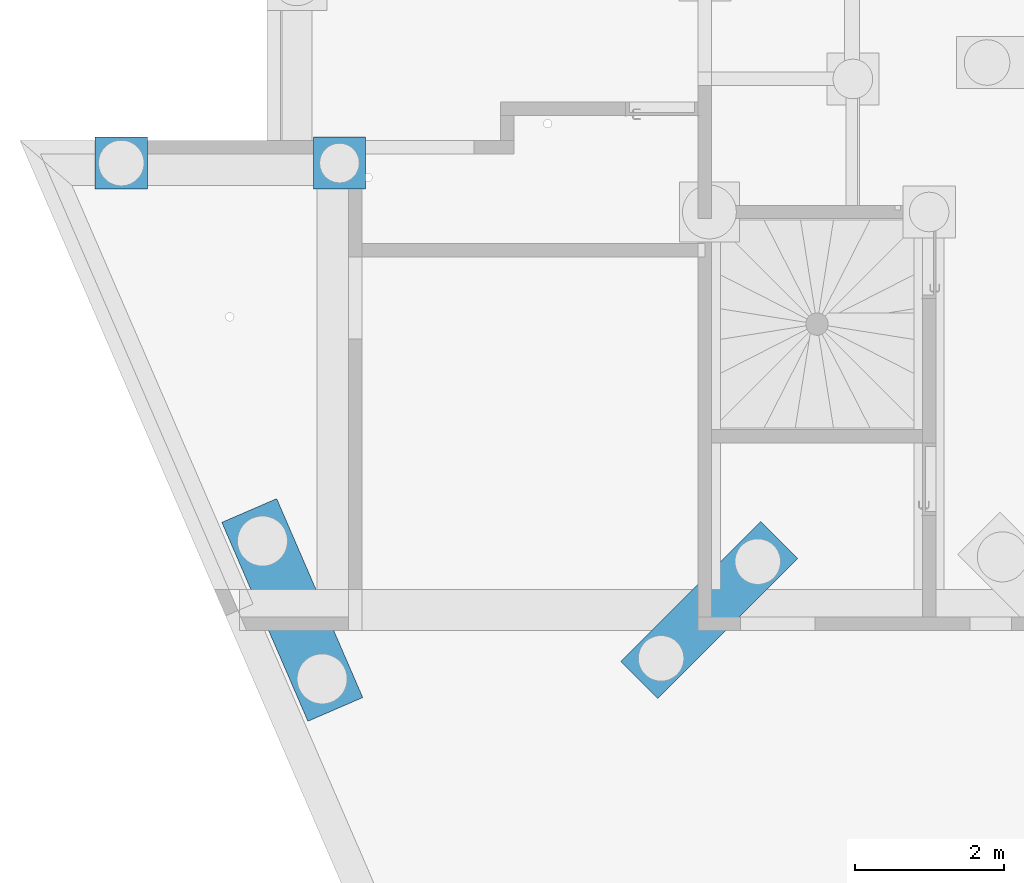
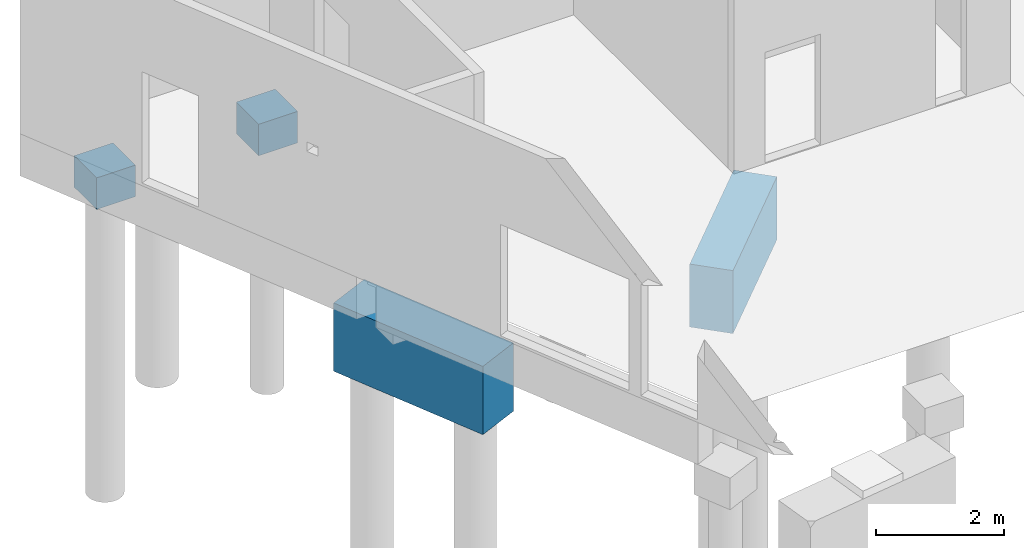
# One storey, part 10 of 29: 4 slabs.
"""IFC2X3 building model written with IfcOpenShell, lengths in centimetres."""

from ifc_helpers import new_model, entity, si_unit, converted_unit, derived_unit, direction, frame, origin, place, context, subcontext, project, spatial, faceted_brep, material, element, save


model = new_model("IFC2X3")

# Units and contexts
model_context = context("Model", 3, precision=0.001, world=origin(), true_north=direction((6.12303176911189e-17, 1.0)))
body_context = subcontext(model_context, "Body", "Model", "MODEL_VIEW")
ifc_project = project(units=[si_unit("LENGTHUNIT", "METRE", prefix="CENTI"), si_unit("AREAUNIT", "SQUARE_METRE"), si_unit("VOLUMEUNIT", "CUBIC_METRE"), converted_unit("PLANEANGLEUNIT", "DEGREE", entity("IfcRatioMeasure", 0.0174532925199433), si_unit("PLANEANGLEUNIT", "RADIAN"), dimensions=[0, 0, 0, 0, 0, 0, 0]), si_unit("MASSUNIT", "GRAM", prefix="KILO"), derived_unit("MASSDENSITYUNIT", [(si_unit("MASSUNIT", "GRAM", prefix="KILO"), 1), (si_unit("LENGTHUNIT", "METRE"), -3)]), si_unit("TIMEUNIT", "SECOND"), si_unit("FREQUENCYUNIT", "HERTZ"), si_unit("THERMODYNAMICTEMPERATUREUNIT", "DEGREE_CELSIUS"), derived_unit("THERMALTRANSMITTANCEUNIT", [(si_unit("MASSUNIT", "GRAM", prefix="KILO"), 1), (si_unit("THERMODYNAMICTEMPERATUREUNIT", "KELVIN"), -1), (si_unit("TIMEUNIT", "SECOND"), -3)]), derived_unit("VOLUMETRICFLOWRATEUNIT", [(si_unit("LENGTHUNIT", "METRE"), 3), (si_unit("TIMEUNIT", "SECOND"), -1)]), si_unit("ELECTRICCURRENTUNIT", "AMPERE"), si_unit("ELECTRICVOLTAGEUNIT", "VOLT"), si_unit("POWERUNIT", "WATT"), si_unit("FORCEUNIT", "NEWTON"), si_unit("ILLUMINANCEUNIT", "LUX"), si_unit("LUMINOUSFLUXUNIT", "LUMEN"), si_unit("LUMINOUSINTENSITYUNIT", "CANDELA"), derived_unit("USERDEFINED", [(si_unit("MASSUNIT", "GRAM", prefix="KILO"), -1), (si_unit("LENGTHUNIT", "METRE"), -2), (si_unit("TIMEUNIT", "SECOND"), 3), (si_unit("LUMINOUSFLUXUNIT", "LUMEN"), 1)]), derived_unit("LINEARVELOCITYUNIT", [(si_unit("LENGTHUNIT", "METRE"), 1), (si_unit("TIMEUNIT", "SECOND"), -1)]), si_unit("PRESSUREUNIT", "PASCAL"), derived_unit("USERDEFINED", [(si_unit("LENGTHUNIT", "METRE"), -2), (si_unit("MASSUNIT", "GRAM", prefix="KILO"), 1), (si_unit("TIMEUNIT", "SECOND"), -2)])], contexts=[model_context])

# Site, building, storey
site_placement = place(None, origin())
site = spatial("IfcSite", under=ifc_project, at=site_placement, Name="Default", CompositionType="ELEMENT")
building_placement = place(site_placement, origin())
building = spatial("IfcBuilding", under=site, at=building_placement, Name="CAGE 03", CompositionType="ELEMENT")
storey_placement = place(building_placement, frame((0.0, 0.0, -34.0)))
storey = spatial("IfcBuildingStorey", under=building, at=storey_placement, Name="+3.66", CompositionType="ELEMENT", Elevation=-34.0000000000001)

# Slabs
ifc_material = material(Name="Béton, C25/30")
slab_1_placement = place(storey_placement, frame((2847.36582014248, 4972.16066607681, -145.0)))
element("IfcSlab", 1, at=slab_1_placement, inside=storey, material=ifc_material, Name="M_Base-Rectangulaire:70x70x60ht", ObjectType="M_Base-Rectangulaire:70x70x60ht", PredefinedType="BASESLAB", context=body_context, shape_type="Brep", body=[
    faceted_brep([(70.0, 70.0, 60.0), (0.0, 70.0, 60.0), (0.0, 0.0, 60.0), (70.0, 0.0, 60.0), (0.0, 0.0, 0.0), (13.4332431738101, 13.4332431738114, 0.0), (18.8249323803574, 11.1999323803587, 0.0), (24.2166215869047, 8.96662158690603, 0.0), (29.6083107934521, 6.73331079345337, 0.0), (35.0, 4.50000000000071, 0.0), (70.0, 0.0, 0.0), (11.199932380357, 18.8249323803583, 0.0), (8.96662158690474, 24.216621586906, 0.0), (6.73331079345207, 29.6083107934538, 0.0), (4.49999999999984, 35.0, 0.0), (0.0, 70.0, 0.0), (6.73331079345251, 40.3916892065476, 0.0), (8.96662158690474, 45.7833784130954, 0.0), (11.1999323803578, 51.1750676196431, 0.0), (13.4332431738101, 56.5667568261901, 0.0), (18.8249323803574, 58.8000676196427, 0.0), (24.2166215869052, 61.0333784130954, 0.0), (29.6083107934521, 63.266689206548, 0.0), (35.0, 65.5000000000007, 0.0), (70.0, 70.0, 0.0), (65.4999999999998, 35.0, 0.0), (63.2666892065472, 40.3916892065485, 0.0), (40.3916892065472, 63.266689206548, 0.0), (45.7833784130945, 61.0333784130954, 0.0), (51.1750676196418, 58.8000676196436, 0.0), (56.5667568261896, 56.5667568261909, 0.0), (61.0333784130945, 45.7833784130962, 0.0), (58.8000676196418, 51.1750676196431, 0.0), (40.3916892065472, 6.73331079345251, 0.0), (45.7833784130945, 8.96662158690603, 0.0), (51.1750676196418, 11.1999323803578, 0.0), (56.5667568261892, 13.4332431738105, 0.0), (58.8000676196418, 18.8249323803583, 0.0), (61.0333784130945, 24.2166215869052, 0.0), (63.2666892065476, 29.6083107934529, 0.0), (35.0, 65.5000000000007, 5.0), (40.3916892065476, 63.266689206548, 5.0), (45.7833784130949, 61.0333784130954, 5.0), (51.1750676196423, 58.8000676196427, 5.0), (56.5667568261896, 56.5667568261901, 5.0), (59.8147856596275, 48.7253215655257, 5.0), (62.6573928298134, 41.8626607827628, 5.0), (65.4999999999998, 35.0, 5.0), (62.6573928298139, 28.1373392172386, 5.0), (61.0333784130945, 24.2166215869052, 5.0), (58.8000676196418, 18.8249323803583, 5.0), (56.5667568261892, 13.4332431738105, 5.0), (51.1750676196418, 11.1999323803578, 5.0), (45.7833784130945, 8.96662158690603, 5.0), (40.3916892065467, 6.73331079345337, 5.0), (35.0, 4.50000000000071, 5.0), (29.6083107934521, 6.73331079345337, 5.0), (24.2166215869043, 8.96662158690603, 5.0), (18.824932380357, 11.1999323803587, 5.0), (13.4332431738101, 13.4332431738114, 5.0), (10.1852143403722, 21.2746784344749, 5.0), (7.34260717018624, 28.1373392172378, 5.0), (4.49999999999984, 35.0, 5.0), (7.34260717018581, 41.8626607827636, 5.0), (8.96662158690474, 45.7833784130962, 5.0), (11.1999323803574, 51.1750676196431, 5.0), (13.4332431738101, 56.5667568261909, 5.0), (18.8249323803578, 58.8000676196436, 5.0), (24.2166215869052, 61.0333784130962, 5.0), (29.6083107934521, 63.2666892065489, 5.0)], [[[0, 1, 2, 3]], [[4, 5, 6]], [[4, 6, 7]], [[4, 7, 8]], [[4, 8, 9]], [[4, 9, 10]], [[4, 11, 5]], [[4, 12, 11]], [[4, 13, 12]], [[4, 14, 13]], [[15, 14, 4]], [[15, 16, 14]], [[15, 17, 16]], [[15, 18, 17]], [[15, 19, 18]], [[15, 20, 19]], [[15, 21, 20]], [[15, 22, 21]], [[15, 23, 22]], [[24, 23, 15]], [[10, 25, 24]], [[24, 25, 26]], [[24, 27, 23]], [[24, 28, 27]], [[24, 29, 28]], [[24, 30, 29]], [[24, 26, 31]], [[24, 31, 32]], [[24, 32, 30]], [[10, 9, 33]], [[10, 33, 34]], [[10, 34, 35]], [[10, 35, 36]], [[10, 36, 37]], [[10, 37, 38]], [[10, 38, 39]], [[10, 39, 25]], [[2, 1, 15, 4]], [[3, 2, 4, 10]], [[0, 3, 10, 24]], [[1, 0, 24, 15]], [[40, 41, 42, 43, 44, 45, 46, 47, 48, 49, 50, 51, 52, 53, 54, 55, 56, 57, 58, 59, 60, 61, 62, 63, 64, 65, 66, 67, 68, 69]], [[5, 59, 58, 57, 56, 55, 9, 8, 7, 6]], [[39, 38, 37, 36, 51, 50, 49, 48, 47, 25]], [[5, 11, 12, 13, 14, 62, 61, 60, 59]], [[33, 9, 55, 54, 53, 52, 51, 36, 35, 34]], [[30, 44, 43, 42, 41, 40, 23, 27, 28, 29]], [[16, 17, 18, 19, 66, 65, 64, 63, 62, 14]], [[30, 32, 31, 26, 25, 47, 46, 45, 44]], [[22, 23, 40, 69, 68, 67, 66, 19, 20, 21]]]),
])
slab_2_placement = place(storey_placement, frame((3139.36582014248, 4972.16066607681, -145.0)))
element("IfcSlab", 2, at=slab_2_placement, inside=storey, material=ifc_material, Name="M_Base-Rectangulaire:70x70x60ht", ObjectType="M_Base-Rectangulaire:70x70x60ht", PredefinedType="BASESLAB", context=body_context, shape_type="Brep", body=[
    faceted_brep([(70.0, 70.0, 60.0), (0.0, 70.0, 60.0), (0.0, 0.0, 60.0), (70.0, 0.0, 60.0), (0.0, 0.0, 0.0), (8.49999999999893, 35.0, 0.0), (10.6920097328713, 30.076665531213, 0.0), (0.0, 70.0, 0.0), (12.8840194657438, 25.1533310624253, 0.0), (15.0760291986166, 20.2299965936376, 0.0), (17.268038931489, 15.3066621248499, 0.0), (22.393530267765, 13.6412890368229, 0.0), (27.5190216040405, 11.9759159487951, 0.0), (32.644512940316, 10.3105428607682, 0.0), (37.7700042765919, 8.64516977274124, 0.0), (70.0, 0.0, 0.0), (11.030524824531, 42.788154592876, 0.0), (13.561049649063, 50.5763091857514, 0.0), (18.2282861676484, 53.2709394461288, 0.0), (22.8955226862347, 55.9655697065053, 0.0), (27.5627592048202, 58.6601999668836, 0.0), (32.229995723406, 61.3548302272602, 0.0), (70.0, 70.0, 0.0), (61.499999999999, 35.0, 0.0), (59.3079902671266, 39.9233344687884, 0.0), (57.1159805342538, 44.8466689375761, 0.0), (54.9239708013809, 49.7700034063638, 0.0), (52.7319610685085, 54.6933378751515, 0.0), (47.606469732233, 56.3587109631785, 0.0), (42.4809783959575, 58.0240840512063, 0.0), (37.355487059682, 59.6894571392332, 0.0), (42.4372407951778, 11.3398000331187, 0.0), (47.1044773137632, 14.0344302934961, 0.0), (51.7717138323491, 16.7290605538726, 0.0), (56.438950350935, 19.42369081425, 0.0), (58.969475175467, 27.2118454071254, 0.0), (8.49999999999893, 35.0, 5.0), (10.6920097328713, 39.9233344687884, 5.0), (12.8840194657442, 44.8466689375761, 5.0), (15.0760291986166, 49.7700034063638, 5.0), (17.2680389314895, 54.6933378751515, 5.0), (22.393530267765, 56.3587109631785, 5.0), (27.5190216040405, 58.0240840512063, 5.0), (32.6445129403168, 59.6894571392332, 5.0), (37.7700042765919, 61.3548302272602, 5.0), (42.4372407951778, 58.6601999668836, 5.0), (47.1044773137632, 55.9655697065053, 5.0), (51.7717138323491, 53.2709394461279, 5.0), (56.438950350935, 50.5763091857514, 5.0), (58.969475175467, 42.788154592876, 5.0), (61.499999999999, 35.0, 5.0), (59.3079902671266, 30.076665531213, 5.0), (57.1159805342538, 25.1533310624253, 5.0), (54.9239708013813, 20.2299965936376, 5.0), (52.7319610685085, 15.3066621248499, 5.0), (47.6064697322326, 13.6412890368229, 5.0), (42.4809783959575, 11.9759159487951, 5.0), (37.3554870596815, 10.3105428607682, 5.0), (32.229995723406, 8.64516977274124, 5.0), (27.5627592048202, 11.3398000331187, 5.0), (22.8955226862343, 14.0344302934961, 5.0), (18.2282861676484, 16.7290605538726, 5.0), (13.561049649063, 19.42369081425, 5.0), (11.0305248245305, 27.2118454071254, 5.0)], [[[0, 1, 2, 3]], [[4, 5, 6]], [[5, 4, 7]], [[4, 6, 8]], [[4, 8, 9]], [[4, 9, 10]], [[4, 10, 11]], [[4, 11, 12]], [[4, 12, 13]], [[4, 13, 14]], [[14, 15, 4]], [[7, 16, 5]], [[7, 17, 16]], [[7, 18, 17]], [[7, 19, 18]], [[7, 20, 19]], [[7, 21, 20]], [[21, 7, 22]], [[23, 22, 15]], [[22, 23, 24]], [[22, 24, 25]], [[22, 25, 26]], [[22, 26, 27]], [[22, 27, 28]], [[22, 28, 29]], [[22, 29, 30]], [[22, 30, 21]], [[15, 14, 31]], [[15, 31, 32]], [[15, 32, 33]], [[15, 33, 34]], [[15, 34, 35]], [[15, 35, 23]], [[2, 1, 7, 4]], [[3, 2, 4, 15]], [[0, 3, 15, 22]], [[1, 0, 22, 7]], [[36, 37, 38, 39, 40, 41, 42, 43, 44, 45, 46, 47, 48, 49, 50, 51, 52, 53, 54, 55, 56, 57, 58, 59, 60, 61, 62, 63]], [[9, 8, 62]], [[63, 6, 36]], [[63, 62, 8]], [[62, 61, 9]], [[35, 34, 52]], [[59, 58, 12]], [[36, 6, 5]], [[32, 55, 33]], [[11, 10, 60]], [[34, 33, 54]], [[35, 51, 23]], [[12, 58, 13]], [[60, 10, 61]], [[8, 6, 63]], [[57, 13, 58]], [[61, 10, 9]], [[56, 55, 32]], [[11, 59, 12]], [[54, 33, 55]], [[53, 52, 34, 54]], [[57, 14, 13]], [[31, 14, 56, 32]], [[11, 60, 59]], [[50, 23, 51]], [[57, 56, 14]], [[35, 52, 51]], [[26, 25, 48]], [[49, 24, 50]], [[49, 48, 25]], [[48, 47, 26]], [[46, 27, 47]], [[45, 28, 46]], [[50, 24, 23]], [[21, 43, 20]], [[45, 44, 29]], [[39, 38, 17, 40]], [[16, 37, 5]], [[29, 44, 30]], [[25, 24, 49]], [[43, 21, 30]], [[47, 27, 26]], [[42, 41, 19]], [[28, 27, 46]], [[16, 17, 38]], [[45, 29, 28]], [[36, 5, 37]], [[42, 20, 43]], [[40, 18, 41]], [[19, 41, 18]], [[40, 17, 18]], [[43, 30, 44]], [[42, 19, 20]], [[16, 38, 37]]]),
])
slab_3_placement = place(storey_placement, frame((3550.92543429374, 4290.72028022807, -232.0)))
element("IfcSlab", 3, at=slab_3_placement, inside=storey, material=ifc_material, Name="M_Base-Rectangulaire:265x70x120ht", ObjectType="M_Base-Rectangulaire:265x70x120ht", PredefinedType="BASESLAB", context=body_context, shape_type="Brep", body=[
    faceted_brep([(49.4974746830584, 0.0, 120.0), (236.880771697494, 187.383297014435, 120.0), (187.383297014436, 236.880771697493, 120.0), (0.0, 49.4974746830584, 120.0), (187.383297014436, 236.880771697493, 0.0), (161.573899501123, 204.70741315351, 0.0), (32.1733585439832, 75.3068721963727, 0.0), (0.0, 49.4974746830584, 0.0), (166.965588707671, 206.940723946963, 0.0), (172.357277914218, 209.174034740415, 0.0), (177.748967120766, 211.407345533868, 0.0), (183.140656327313, 213.64065632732, 0.0), (188.53234553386, 211.407345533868, 0.0), (193.924034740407, 209.174034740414, 0.0), (199.315723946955, 206.940723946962, 0.0), (204.707413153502, 204.70741315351, 0.0), (236.880771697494, 187.383297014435, 0.0), (206.940723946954, 199.315723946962, 0.0), (209.174034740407, 193.924034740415, 0.0), (211.40734553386, 188.532345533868, 0.0), (213.640656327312, 183.14065632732, 0.0), (211.40734553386, 177.748967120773, 0.0), (209.174034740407, 172.357277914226, 0.0), (206.940723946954, 166.965588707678, 0.0), (204.707413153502, 161.57389950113, 0.0), (75.3068721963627, 32.1733585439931, 0.0), (49.4974746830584, 0.0, 0.0), (32.1733585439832, 32.1733585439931, 0.0), (37.5650477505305, 29.9400477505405, 0.0), (69.9151829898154, 29.9400477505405, 0.0), (64.5234937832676, 27.7067369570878, 0.0), (59.1318045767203, 25.4734261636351, 0.0), (53.740115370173, 23.2401153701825, 0.0), (42.9567369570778, 27.7067369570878, 0.0), (48.3484261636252, 25.4734261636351, 0.0), (77.5401829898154, 37.5650477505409, 0.0), (79.7734937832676, 42.9567369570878, 0.0), (82.0068045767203, 48.3484261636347, 0.0), (84.2401153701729, 53.7401153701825, 0.0), (199.315723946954, 159.340588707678, 0.0), (193.924034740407, 157.107277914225, 0.0), (188.532345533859, 154.873967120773, 0.0), (183.140656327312, 152.64065632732, 0.0), (177.748967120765, 154.873967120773, 0.0), (172.357277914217, 157.107277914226, 0.0), (166.96558870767, 159.340588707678, 0.0), (161.573899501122, 161.573899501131, 0.0), (82.0068045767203, 59.1318045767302, 0.0), (79.7734937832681, 64.5234937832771, 0.0), (77.5401829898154, 69.915182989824, 0.0), (75.3068721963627, 75.3068721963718, 0.0), (69.9151829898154, 77.5401829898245, 0.0), (64.5234937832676, 79.7734937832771, 0.0), (59.1318045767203, 82.0068045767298, 0.0), (53.740115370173, 84.2401153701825, 0.0), (159.34058870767, 199.315723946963, 0.0), (48.3484261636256, 82.0068045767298, 0.0), (159.34058870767, 166.965588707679, 0.0), (157.107277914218, 172.357277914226, 0.0), (154.873967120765, 177.748967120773, 0.0), (152.640656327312, 183.140656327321, 0.0), (157.107277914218, 193.924034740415, 0.0), (154.873967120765, 188.532345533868, 0.0), (42.9567369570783, 79.773493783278, 0.0), (37.5650477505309, 77.5401829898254, 0.0), (29.9400477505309, 69.9151829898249, 0.0), (27.7067369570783, 64.5234937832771, 0.0), (25.473426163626, 59.1318045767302, 0.0), (23.240115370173, 53.7401153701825, 0.0), (25.4734261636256, 48.3484261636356, 0.0), (27.7067369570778, 42.9567369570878, 0.0), (29.9400477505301, 37.56504775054, 0.0), (213.640656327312, 183.14065632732, 5.0), (211.40734553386, 177.748967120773, 5.0), (209.174034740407, 172.357277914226, 5.0), (206.940723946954, 166.965588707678, 5.0), (204.707413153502, 161.57389950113, 5.0), (196.865977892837, 158.325870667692, 5.0), (190.003317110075, 155.483263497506, 5.0), (183.140656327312, 152.64065632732, 5.0), (176.27799554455, 155.483263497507, 5.0), (172.357277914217, 157.107277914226, 5.0), (166.96558870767, 159.340588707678, 5.0), (161.573899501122, 161.573899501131, 5.0), (159.34058870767, 166.965588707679, 5.0), (157.107277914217, 172.357277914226, 5.0), (154.873967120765, 177.748967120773, 5.0), (152.640656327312, 183.14065632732, 5.0), (154.873967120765, 188.532345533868, 5.0), (157.107277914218, 193.924034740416, 5.0), (159.34058870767, 199.315723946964, 5.0), (161.573899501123, 204.70741315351, 5.0), (169.415334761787, 207.955441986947, 5.0), (176.27799554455, 210.798049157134, 5.0), (183.140656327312, 213.64065632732, 5.0), (190.003317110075, 210.798049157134, 5.0), (193.924034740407, 209.174034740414, 5.0), (199.315723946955, 206.940723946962, 5.0), (204.707413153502, 204.70741315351, 5.0), (206.940723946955, 199.315723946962, 5.0), (209.174034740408, 193.924034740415, 5.0), (211.40734553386, 188.532345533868, 5.0), (84.2401153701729, 53.7401153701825, 5.0), (82.0068045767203, 48.3484261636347, 5.0), (79.7734937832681, 42.9567369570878, 5.0), (77.5401829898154, 37.56504775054, 5.0), (75.3068721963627, 32.1733585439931, 5.0), (67.4654369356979, 28.9253297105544, 5.0), (60.6027761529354, 26.082722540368, 5.0), (53.740115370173, 23.2401153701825, 5.0), (46.8774545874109, 26.0827225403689, 5.0), (42.9567369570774, 27.7067369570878, 5.0), (37.5650477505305, 29.9400477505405, 5.0), (32.1733585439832, 32.1733585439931, 5.0), (29.9400477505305, 37.5650477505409, 5.0), (27.7067369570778, 42.9567369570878, 5.0), (25.4734261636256, 48.3484261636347, 5.0), (23.240115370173, 53.7401153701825, 5.0), (25.4734261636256, 59.1318045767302, 5.0), (27.7067369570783, 64.5234937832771, 5.0), (29.9400477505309, 69.9151829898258, 5.0), (32.1733585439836, 75.3068721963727, 5.0), (40.0147938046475, 78.5549010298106, 5.0), (46.8774545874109, 81.3975081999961, 5.0), (53.7401153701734, 84.2401153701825, 5.0), (60.602776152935, 81.3975081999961, 5.0), (64.5234937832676, 79.7734937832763, 5.0), (69.9151829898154, 77.5401829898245, 5.0), (75.3068721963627, 75.3068721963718, 5.0), (77.5401829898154, 69.915182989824, 5.0), (79.7734937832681, 64.5234937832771, 5.0), (82.0068045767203, 59.1318045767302, 5.0)], [[[0, 1, 2, 3]], [[4, 5, 6]], [[6, 7, 4]], [[4, 8, 5]], [[4, 9, 8]], [[4, 10, 9]], [[4, 11, 10]], [[4, 12, 11]], [[4, 13, 12]], [[4, 14, 13]], [[4, 15, 14]], [[15, 4, 16]], [[16, 17, 15]], [[16, 18, 17]], [[16, 19, 18]], [[16, 20, 19]], [[16, 21, 20]], [[16, 22, 21]], [[16, 23, 22]], [[16, 24, 23]], [[24, 16, 25]], [[26, 25, 16]], [[27, 26, 7]], [[26, 27, 28]], [[26, 29, 25]], [[26, 30, 29]], [[26, 31, 30]], [[26, 32, 31]], [[26, 28, 33]], [[26, 33, 34]], [[26, 34, 32]], [[24, 25, 35]], [[24, 35, 36]], [[24, 36, 37]], [[24, 37, 38]], [[38, 39, 24]], [[38, 40, 39]], [[38, 41, 40]], [[38, 42, 41]], [[38, 43, 42]], [[38, 44, 43]], [[38, 45, 44]], [[38, 46, 45]], [[46, 38, 47]], [[46, 47, 48]], [[46, 48, 49]], [[46, 49, 50]], [[46, 50, 51]], [[46, 51, 52]], [[46, 52, 53]], [[46, 53, 54]], [[54, 5, 55]], [[5, 54, 56]], [[54, 57, 46]], [[54, 58, 57]], [[54, 59, 58]], [[54, 60, 59]], [[54, 55, 61]], [[54, 61, 62]], [[54, 62, 60]], [[5, 56, 63]], [[5, 63, 64]], [[5, 64, 6]], [[7, 6, 65]], [[7, 65, 66]], [[7, 66, 67]], [[7, 67, 68]], [[7, 68, 69]], [[7, 69, 70]], [[7, 70, 71]], [[7, 71, 27]], [[2, 1, 16, 4]], [[3, 2, 4, 7]], [[0, 3, 7, 26]], [[1, 0, 26, 16]], [[72, 73, 74, 75, 76, 77, 78, 79, 80, 81, 82, 83, 84, 85, 86, 87, 88, 89, 90, 91, 92, 93, 94, 95, 96, 97, 98, 99, 100, 101]], [[102, 103, 104, 105, 106, 107, 108, 109, 110, 111, 112, 113, 114, 115, 116, 117, 118, 119, 120, 121, 122, 123, 124, 125, 126, 127, 128, 129, 130, 131]], [[5, 91, 90, 89, 88, 87, 60, 62, 61, 55]], [[43, 44, 45, 46, 83, 82, 81, 80, 79, 42]], [[5, 8, 9, 10, 11, 94, 93, 92, 91]], [[59, 60, 87, 86, 85, 84, 83, 46, 57, 58]], [[24, 76, 75, 74, 73, 72, 20, 21, 22, 23]], [[12, 13, 14, 15, 98, 97, 96, 95, 94, 11]], [[24, 39, 40, 41, 42, 79, 78, 77, 76]], [[19, 20, 72, 101, 100, 99, 98, 15, 17, 18]], [[6, 121, 120, 119, 118, 117, 68, 67, 66, 65]], [[34, 33, 28, 27, 113, 112, 111, 110, 109, 32]], [[6, 64, 63, 56, 54, 124, 123, 122, 121]], [[69, 68, 117, 116, 115, 114, 113, 27, 71, 70]], [[25, 106, 105, 104, 103, 102, 38, 37, 36, 35]], [[53, 52, 51, 50, 128, 127, 126, 125, 124, 54]], [[25, 29, 30, 31, 32, 109, 108, 107, 106]], [[47, 38, 102, 131, 130, 129, 128, 50, 49, 48]]]),
])
slab_4_placement = place(storey_placement, frame((3016.96330446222, 4260.1993820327, -242.0)))
element("IfcSlab", 4, at=slab_4_placement, inside=storey, material=ifc_material, Name="M_Base-Rectangulaire:290x80x130ht", ObjectType="M_Base-Rectangulaire:290x80x130ht", PredefinedType="BASESLAB", context=body_context, shape_type="Brep", body=[
    faceted_brep([(188.582616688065, 31.7684977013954, 130.0), (73.4218125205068, 297.922568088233, 130.0), (0.0, 266.154070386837, 130.0), (115.160804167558, 0.0, 130.0), (0.0, 266.154070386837, 0.0), (23.6367491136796, 227.894377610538, 0.0), (103.455099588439, 43.422073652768, 0.0), (115.160804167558, 0.0, 0.0), (23.402263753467, 233.94063032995, 0.0), (23.167778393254, 239.98688304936, 0.0), (22.9332930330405, 246.033135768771, 0.0), (22.6988076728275, 252.079388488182, 0.0), (26.5988550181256, 256.705594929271, 0.0), (30.4989023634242, 261.33180137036, 0.0), (34.3989497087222, 265.958007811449, 0.0), (38.2989970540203, 270.584214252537, 0.0), (73.4218125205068, 297.922568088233, 0.0), (45.7595061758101, 270.873547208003, 0.0), (53.2200152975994, 271.162880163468, 0.0), (60.6805244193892, 271.452213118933, 0.0), (68.1410335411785, 271.741546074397, 0.0), (72.3876544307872, 267.431283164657, 0.0), (76.6342753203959, 263.121020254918, 0.0), (80.8808962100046, 258.810757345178, 0.0), (85.1275170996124, 254.500494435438, 0.0), (164.945867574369, 70.0281904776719, 0.0), (188.582616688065, 31.7684977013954, 0.0), (150.283619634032, 27.3383538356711, 0.0), (154.183666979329, 31.9645602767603, 0.0), (165.180352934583, 63.9819377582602, 0.0), (165.414838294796, 57.9356850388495, 0.0), (165.64932365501, 51.8894323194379, 0.0), (165.883809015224, 45.8431796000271, 0.0), (158.083714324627, 36.5907667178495, 0.0), (161.983761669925, 41.2169731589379, 0.0), (160.69924668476, 74.3384533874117, 0.0), (156.452625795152, 78.6487162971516, 0.0), (152.206004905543, 82.9589792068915, 0.0), (147.959384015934, 87.2692421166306, 0.0), (85.3620024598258, 248.454241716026, 0.0), (85.5964878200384, 242.407988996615, 0.0), (85.8309731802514, 236.361736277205, 0.0), (86.0654585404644, 230.315483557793, 0.0), (82.1654111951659, 225.689277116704, 0.0), (78.2653638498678, 221.063070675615, 0.0), (74.3653165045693, 216.436864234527, 0.0), (70.4652691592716, 211.810657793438, 0.0), (140.498874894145, 86.9799091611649, 0.0), (133.038365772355, 86.6905762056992, 0.0), (125.577856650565, 86.4012432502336, 0.0), (118.117347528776, 86.1119102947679, 0.0), (63.0047600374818, 211.521324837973, 0.0), (55.5442509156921, 211.231991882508, 0.0), (48.0837417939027, 210.942658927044, 0.0), (40.6232326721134, 210.653325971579, 0.0), (114.217300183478, 81.4857038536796, 0.0), (110.317252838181, 76.8594974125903, 0.0), (106.417205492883, 72.2332909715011, 0.0), (102.517158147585, 67.6070845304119, 0.0), (27.8833700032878, 223.584114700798, 0.0), (102.751643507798, 61.5608318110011, 0.0), (32.1299908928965, 219.273851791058, 0.0), (36.3766117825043, 214.963588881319, 0.0), (102.986128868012, 55.5145790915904, 0.0), (103.220614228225, 49.4683263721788, 0.0), (107.701720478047, 39.111810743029, 0.0), (111.948341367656, 34.8015478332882, 0.0), (116.194962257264, 30.4912849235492, 0.0), (120.441583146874, 26.1810220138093, 0.0), (127.902092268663, 26.470354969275, 0.0), (135.362601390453, 26.7596879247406, 0.0), (142.823110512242, 27.0490208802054, 0.0), (86.0654585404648, 230.315483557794, 5.0), (80.7469981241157, 225.075551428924, 5.0), (75.4285377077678, 219.835619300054, 5.0), (70.1100772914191, 214.595687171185, 5.0), (64.7916168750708, 209.355755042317, 5.0), (58.7495208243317, 209.680147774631, 5.0), (52.7074247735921, 210.004540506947, 5.0), (46.6653287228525, 210.328933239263, 5.0), (40.6232326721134, 210.653325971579, 5.0), (36.3766117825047, 214.963588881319, 5.0), (32.1299908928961, 219.273851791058, 5.0), (29.1165859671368, 222.332417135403, 5.0), (23.63674911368, 227.894377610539, 5.0), (23.3341693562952, 235.696458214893, 5.0), (23.167778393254, 239.986883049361, 5.0), (22.933293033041, 246.033135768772, 5.0), (22.698807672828, 252.079388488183, 5.0), (28.0172680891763, 257.319320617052, 5.0), (33.3357285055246, 262.559252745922, 5.0), (38.6541889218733, 267.799184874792, 5.0), (43.9726493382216, 273.03911700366, 5.0), (50.0147453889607, 272.714724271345, 5.0), (56.0568414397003, 272.390331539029, 5.0), (62.0989374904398, 272.065938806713, 5.0), (68.1410335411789, 271.741546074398, 5.0), (72.3876544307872, 267.431283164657, 5.0), (76.6342753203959, 263.121020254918, 5.0), (79.6476802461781, 260.06245491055, 5.0), (85.1275170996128, 254.500494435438, 5.0), (85.4300968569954, 246.698413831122, 5.0), (85.5964878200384, 242.407988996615, 5.0), (85.8309731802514, 236.361736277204, 5.0), (165.883809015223, 45.843179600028, 5.0), (160.565348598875, 40.6032474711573, 5.0), (155.246888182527, 35.3633153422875, 5.0), (149.928427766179, 30.1233832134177, 5.0), (144.609967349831, 24.8834510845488, 5.0), (138.567871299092, 25.2078438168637, 5.0), (132.525775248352, 25.5322365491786, 5.0), (126.483679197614, 25.8566292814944, 5.0), (120.441583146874, 26.1810220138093, 5.0), (116.194962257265, 30.4912849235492, 5.0), (111.948341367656, 34.8015478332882, 5.0), (108.934936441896, 37.860113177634, 5.0), (103.455099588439, 43.422073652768, 5.0), (103.152519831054, 51.2241542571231, 5.0), (102.986128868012, 55.5145790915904, 5.0), (102.751643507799, 61.5608318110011, 5.0), (102.517158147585, 67.6070845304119, 5.0), (107.835618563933, 72.8470166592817, 5.0), (113.154078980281, 78.0869487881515, 5.0), (118.472539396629, 83.3268809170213, 5.0), (123.790999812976, 88.5668130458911, 5.0), (129.833095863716, 88.2424203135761, 5.0), (135.875191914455, 87.9180275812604, 5.0), (141.917287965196, 87.5936348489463, 5.0), (147.959384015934, 87.2692421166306, 5.0), (152.206004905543, 82.9589792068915, 5.0), (156.452625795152, 78.6487162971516, 5.0), (159.466030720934, 75.5901509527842, 5.0), (164.945867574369, 70.0281904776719, 5.0), (165.248447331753, 62.2261098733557, 5.0), (165.414838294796, 57.9356850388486, 5.0), (165.64932365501, 51.8894323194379, 5.0)], [[[0, 1, 2, 3]], [[4, 5, 6]], [[6, 7, 4]], [[4, 8, 5]], [[4, 9, 8]], [[4, 10, 9]], [[4, 11, 10]], [[4, 12, 11]], [[4, 13, 12]], [[4, 14, 13]], [[4, 15, 14]], [[4, 16, 15]], [[16, 17, 15]], [[16, 18, 17]], [[16, 19, 18]], [[16, 20, 19]], [[16, 21, 20]], [[16, 22, 21]], [[16, 23, 22]], [[16, 24, 23]], [[24, 16, 25]], [[26, 25, 16]], [[27, 26, 7]], [[26, 27, 28]], [[26, 29, 25]], [[26, 30, 29]], [[26, 31, 30]], [[26, 32, 31]], [[26, 28, 33]], [[26, 33, 34]], [[26, 34, 32]], [[24, 25, 35]], [[24, 35, 36]], [[24, 36, 37]], [[24, 37, 38]], [[38, 39, 24]], [[38, 40, 39]], [[38, 41, 40]], [[38, 42, 41]], [[38, 43, 42]], [[38, 44, 43]], [[38, 45, 44]], [[38, 46, 45]], [[46, 38, 47]], [[46, 47, 48]], [[46, 48, 49]], [[46, 49, 50]], [[50, 51, 46]], [[50, 52, 51]], [[50, 53, 52]], [[50, 54, 53]], [[54, 50, 55]], [[54, 55, 56]], [[54, 56, 57]], [[54, 57, 58]], [[58, 5, 59]], [[5, 58, 60]], [[58, 59, 61]], [[58, 61, 62]], [[58, 62, 54]], [[5, 60, 63]], [[5, 63, 64]], [[5, 64, 6]], [[7, 6, 65]], [[7, 65, 66]], [[7, 66, 67]], [[7, 67, 68]], [[7, 68, 69]], [[7, 69, 70]], [[7, 70, 71]], [[7, 71, 27]], [[2, 1, 16, 4]], [[3, 2, 4, 7]], [[0, 3, 7, 26]], [[1, 0, 26, 16]], [[72, 73, 74, 75, 76, 77, 78, 79, 80, 81, 82, 83, 84, 85, 86, 87, 88, 89, 90, 91, 92, 93, 94, 95, 96, 97, 98, 99, 100, 101, 102, 103]], [[104, 105, 106, 107, 108, 109, 110, 111, 112, 113, 114, 115, 116, 117, 118, 119, 120, 121, 122, 123, 124, 125, 126, 127, 128, 129, 130, 131, 132, 133, 134, 135]], [[59, 5, 84, 83, 82, 81, 80, 54, 62, 61]], [[39, 40, 41, 42, 72, 103, 102, 101, 100, 24]], [[80, 79, 54]], [[79, 78, 53]], [[42, 43, 72]], [[74, 45, 75]], [[43, 73, 72]], [[46, 51, 76]], [[52, 53, 78]], [[79, 53, 54]], [[43, 44, 73]], [[73, 44, 74]], [[52, 77, 51]], [[46, 75, 45]], [[74, 44, 45]], [[76, 51, 77]], [[52, 78, 77]], [[46, 76, 75]], [[23, 24, 100, 99, 98, 97, 96, 20, 21, 22]], [[8, 9, 10, 11, 88, 87, 86, 85, 84, 5]], [[96, 95, 20]], [[95, 94, 19]], [[11, 12, 88]], [[90, 14, 91]], [[12, 89, 88]], [[15, 17, 92]], [[18, 19, 94]], [[95, 19, 20]], [[12, 13, 89]], [[89, 13, 90]], [[18, 93, 17]], [[15, 91, 14]], [[90, 13, 14]], [[92, 17, 93]], [[18, 94, 93]], [[15, 92, 91]], [[65, 6, 116, 115, 114, 113, 112, 68, 67, 66]], [[29, 30, 31, 32, 104, 135, 134, 133, 132, 25]], [[112, 111, 68]], [[111, 110, 69]], [[32, 34, 104]], [[106, 28, 107]], [[34, 105, 104]], [[27, 71, 108]], [[70, 69, 110]], [[111, 69, 68]], [[34, 33, 105]], [[105, 33, 106]], [[70, 109, 71]], [[27, 107, 28]], [[106, 33, 28]], [[108, 71, 109]], [[70, 110, 109]], [[27, 108, 107]], [[35, 25, 132, 131, 130, 129, 128, 38, 37, 36]], [[64, 63, 60, 58, 120, 119, 118, 117, 116, 6]], [[128, 127, 38]], [[127, 126, 47]], [[58, 57, 120]], [[122, 55, 123]], [[57, 121, 120]], [[50, 49, 124]], [[48, 47, 126]], [[127, 47, 38]], [[57, 56, 121]], [[121, 56, 122]], [[48, 125, 49]], [[50, 123, 55]], [[122, 56, 55]], [[124, 49, 125]], [[48, 126, 125]], [[50, 124, 123]]]),
])

save(model, "model.ifc")
